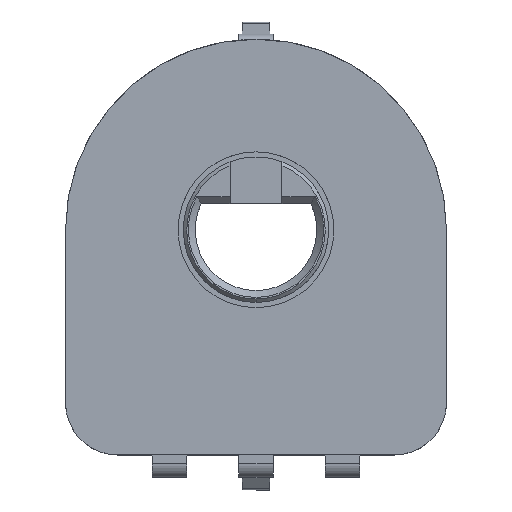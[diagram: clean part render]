
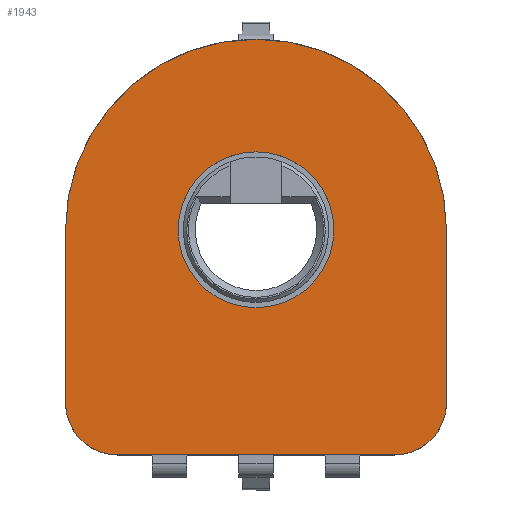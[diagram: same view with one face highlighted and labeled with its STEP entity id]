
A CAD part, top view. The second image highlights one B-rep face of the part: STEP entity #1943.
In plain terms, the highlighted planar face has unit normal (0, 0, 1) as drawn and (0, 0, -1) by its records, which use the part's own axes.
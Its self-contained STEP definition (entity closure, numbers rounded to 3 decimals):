
#26 = DIRECTION ( 'NONE',  ( 1., 0., 0. ) ) ;
#41 = ORIENTED_EDGE ( 'NONE', *, *, #1489, .F. ) ;
#80 = VECTOR ( 'NONE', #2795, 1000. ) ;
#233 = ORIENTED_EDGE ( 'NONE', *, *, #586, .F. ) ;
#351 = DIRECTION ( 'NONE',  ( 0., 1., 0. ) ) ;
#354 = EDGE_CURVE ( 'NONE', #4356, #4044, #4959, .T. ) ;
#496 = DIRECTION ( 'NONE',  ( 1., 0., 0. ) ) ;
#541 = CARTESIAN_POINT ( 'NONE',  ( 0., 0., 0. ) ) ;
#586 = EDGE_CURVE ( 'NONE', #3177, #4356, #6813, .T. ) ;
#859 = CARTESIAN_POINT ( 'NONE',  ( -2.25, 0., 0. ) ) ;
#870 = ORIENTED_EDGE ( 'NONE', *, *, #4154, .T. ) ;
#895 = PLANE ( 'NONE',  #1038 ) ;
#938 = EDGE_CURVE ( 'NONE', #6256, #3177, #3753, .T. ) ;
#949 = CARTESIAN_POINT ( 'NONE',  ( -4., -6.5, 0. ) ) ;
#1038 = AXIS2_PLACEMENT_3D ( 'NONE', #5025, #1513, #5622 ) ;
#1140 = DIRECTION ( 'NONE',  ( 1., 0., 0. ) ) ;
#1235 = EDGE_CURVE ( 'NONE', #4302, #6256, #3176, .T. ) ;
#1274 = CARTESIAN_POINT ( 'NONE',  ( -5.5, -5., 0. ) ) ;
#1284 = CIRCLE ( 'NONE', #1443, 5.5 ) ;
#1396 = CARTESIAN_POINT ( 'NONE',  ( 5.5, 0., 0. ) ) ;
#1443 = AXIS2_PLACEMENT_3D ( 'NONE', #1633, #5738, #2218 ) ;
#1489 = EDGE_CURVE ( 'NONE', #4095, #4302, #4362, .T. ) ;
#1513 = DIRECTION ( 'NONE',  ( 0., 0., -1. ) ) ;
#1533 = VERTEX_POINT ( 'NONE', #2789 ) ;
#1602 = CARTESIAN_POINT ( 'NONE',  ( -5.5, 0., 0. ) ) ;
#1633 = CARTESIAN_POINT ( 'NONE',  ( 0., 0., 0. ) ) ;
#1943 = ADVANCED_FACE ( 'NONE', ( #6520, #2029 ), #895, .T. ) ;
#1971 = EDGE_CURVE ( 'NONE', #4044, #4095, #1284, .T. ) ;
#2029 = FACE_BOUND ( 'NONE', #5848, .T. ) ;
#2218 = DIRECTION ( 'NONE',  ( -1., 0., 0. ) ) ;
#2325 = DIRECTION ( 'NONE',  ( 0., 0., 1. ) ) ;
#2547 = ORIENTED_EDGE ( 'NONE', *, *, #938, .F. ) ;
#2586 = ORIENTED_EDGE ( 'NONE', *, *, #354, .F. ) ;
#2688 = EDGE_CURVE ( 'NONE', #1533, #3494, #2907, .T. ) ;
#2789 = CARTESIAN_POINT ( 'NONE',  ( 2.25, 0., 0. ) ) ;
#2795 = DIRECTION ( 'NONE',  ( 1., 0., 0. ) ) ;
#2878 = AXIS2_PLACEMENT_3D ( 'NONE', #541, #4639, #1140 ) ;
#2907 = CIRCLE ( 'NONE', #2878, 2.25 ) ;
#3176 = CIRCLE ( 'NONE', #4275, 1.5 ) ;
#3177 = VERTEX_POINT ( 'NONE', #6878 ) ;
#3213 = CIRCLE ( 'NONE', #3237, 2.25 ) ;
#3221 = CARTESIAN_POINT ( 'NONE',  ( -5.5, 0., 0. ) ) ;
#3237 = AXIS2_PLACEMENT_3D ( 'NONE', #5842, #2325, #6439 ) ;
#3242 = ORIENTED_EDGE ( 'NONE', *, *, #1235, .F. ) ;
#3378 = ORIENTED_EDGE ( 'NONE', *, *, #1971, .F. ) ;
#3494 = VERTEX_POINT ( 'NONE', #859 ) ;
#3528 = DIRECTION ( 'NONE',  ( 0., 0., 1. ) ) ;
#3753 = LINE ( 'NONE', #6175, #80 ) ;
#4044 = VERTEX_POINT ( 'NONE', #1396 ) ;
#4089 = CARTESIAN_POINT ( 'NONE',  ( -4., -5., 0. ) ) ;
#4095 = VERTEX_POINT ( 'NONE', #3221 ) ;
#4154 = EDGE_CURVE ( 'NONE', #3494, #1533, #3213, .T. ) ;
#4275 = AXIS2_PLACEMENT_3D ( 'NONE', #4089, #4668, #496 ) ;
#4302 = VERTEX_POINT ( 'NONE', #1274 ) ;
#4356 = VERTEX_POINT ( 'NONE', #6620 ) ;
#4362 = LINE ( 'NONE', #1602, #7322 ) ;
#4440 = CARTESIAN_POINT ( 'NONE',  ( 5.5, 0., 0. ) ) ;
#4639 = DIRECTION ( 'NONE',  ( 0., 0., 1. ) ) ;
#4668 = DIRECTION ( 'NONE',  ( 0., 0., 1. ) ) ;
#4959 = LINE ( 'NONE', #4440, #6525 ) ;
#4990 = EDGE_LOOP ( 'NONE', ( #3378, #2586, #233, #2547, #3242, #41 ) ) ;
#5025 = CARTESIAN_POINT ( 'NONE',  ( 0., 0., 0. ) ) ;
#5409 = AXIS2_PLACEMENT_3D ( 'NONE', #7061, #3528, #26 ) ;
#5622 = DIRECTION ( 'NONE',  ( -1., 0., 0. ) ) ;
#5715 = DIRECTION ( 'NONE',  ( 0., -1., 0. ) ) ;
#5738 = DIRECTION ( 'NONE',  ( 0., 0., 1. ) ) ;
#5842 = CARTESIAN_POINT ( 'NONE',  ( 0., 0., 0. ) ) ;
#5848 = EDGE_LOOP ( 'NONE', ( #870, #6210 ) ) ;
#6175 = CARTESIAN_POINT ( 'NONE',  ( -4., -6.5, 0. ) ) ;
#6210 = ORIENTED_EDGE ( 'NONE', *, *, #2688, .T. ) ;
#6256 = VERTEX_POINT ( 'NONE', #949 ) ;
#6439 = DIRECTION ( 'NONE',  ( 1., 0., 0. ) ) ;
#6520 = FACE_OUTER_BOUND ( 'NONE', #4990, .T. ) ;
#6525 = VECTOR ( 'NONE', #351, 1000. ) ;
#6620 = CARTESIAN_POINT ( 'NONE',  ( 5.5, -5., 0. ) ) ;
#6813 = CIRCLE ( 'NONE', #5409, 1.5 ) ;
#6878 = CARTESIAN_POINT ( 'NONE',  ( 4., -6.5, 0. ) ) ;
#7061 = CARTESIAN_POINT ( 'NONE',  ( 4., -5., 0. ) ) ;
#7322 = VECTOR ( 'NONE', #5715, 1000. ) ;
